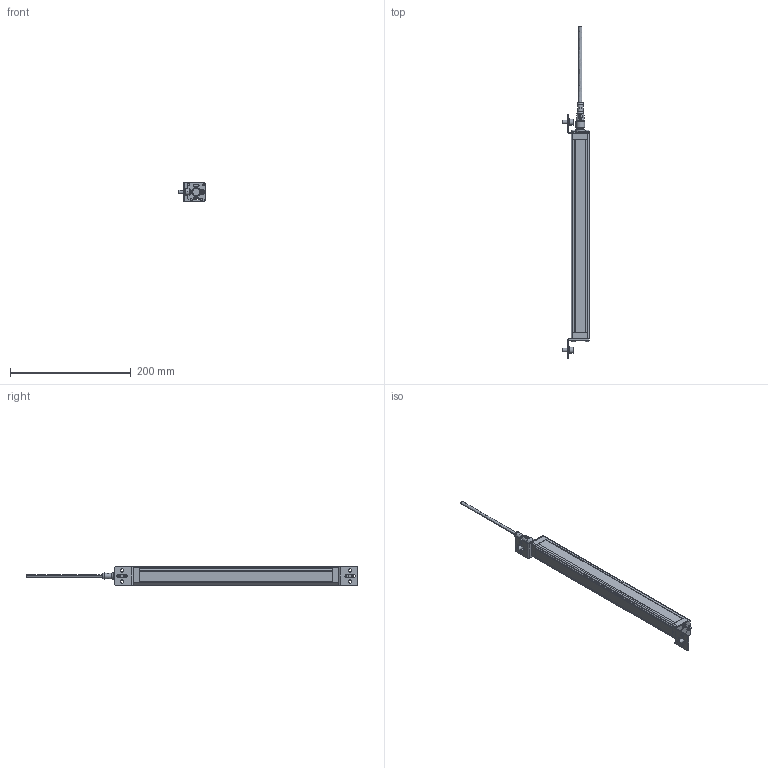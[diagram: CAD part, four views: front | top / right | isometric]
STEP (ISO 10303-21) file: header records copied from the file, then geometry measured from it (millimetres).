
FILE_DESCRIPTION(/* description */ (''),/* implementation_level */ '2;1');
FILE_NAME(/* name */ 'QE32-10-310.prt.stp',/* time_stamp */ '2023-07-18T19:59:46+08:00',/* author */ (''),/* organization */ (''),/* preprocessor_version */ 'ST-DEVELOPER v14',/* originating_system */ 'SIEMENS PLM Software NX 8.0',/* authorisation */ '');
FILE_SCHEMA (('CONFIG_CONTROL_DESIGN'));
Products named in the file (1): QE32-10-310
Bounding box: 44.2 x 548.8 x 30 mm (x, y, z)
Volume: 283146.4 mm3; surface area: 78364 mm2
Topology: 25 solids, 25 shells, 615 faces, 1569 edges, 1039 vertices
Faces by surface type: plane 335, cylinder 196, bspline 57, cone 18, sphere 5, torus 4
Full cylindrical faces by diameter (mm): 0.7 x2, 1 x5, 2 x5, 2.2 x8, 3.6 x8, 4 x4, 5.5 x12, 6 x2, 7 x2, 8 x1, 9.04 x1, 9.1 x1, 10 x3, 10.8 x1, 11 x2, 11.85 x1, 11.9 x1, 14.5 x1, 15 x2, 15.2 x2
Entity records: 41715 total; most frequent: CARTESIAN_POINT 27549, ORIENTED_EDGE 2832, DIRECTION 2774, EDGE_CURVE 1416, AXIS2_PLACEMENT_3D 1007, VERTEX_POINT 983, EDGE_LOOP 813, LINE 760
